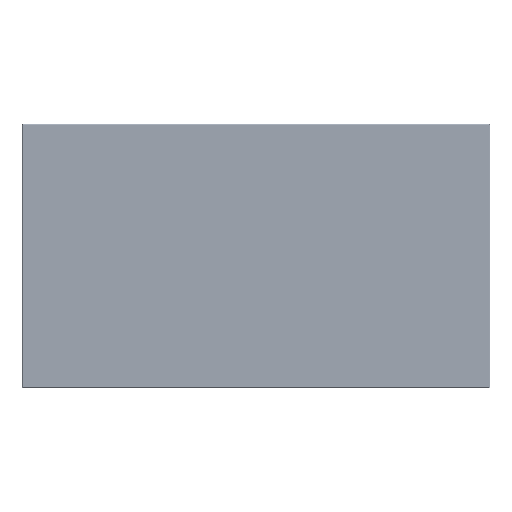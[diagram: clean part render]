
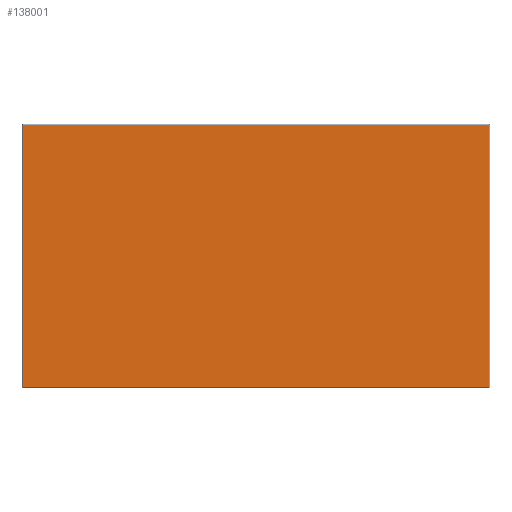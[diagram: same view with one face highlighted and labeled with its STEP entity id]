
A CAD part, front view. The second image highlights one B-rep face of the part: STEP entity #138001.
In plain terms, the highlighted planar face has unit normal (0, -1, 0).
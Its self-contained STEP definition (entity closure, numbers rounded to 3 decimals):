
#11832 = EDGE_CURVE ( 'NONE', #117384, #45383, #54052, .T. ) ;
#22846 = PLANE ( 'NONE',  #125905 ) ;
#34075 = CARTESIAN_POINT ( 'NONE',  ( 0., -98.142, -341.12 ) ) ;
#41653 = ORIENTED_EDGE ( 'NONE', *, *, #99251, .T. ) ;
#45251 = CARTESIAN_POINT ( 'NONE',  ( 0., -98.142, 341.12 ) ) ;
#45383 = VERTEX_POINT ( 'NONE', #64517 ) ;
#45443 = DIRECTION ( 'NONE',  ( 0., 1., 0. ) ) ;
#52439 = CARTESIAN_POINT ( 'NONE',  ( 605.72, -98.142, -341.12 ) ) ;
#53624 = LINE ( 'NONE', #34075, #101573 ) ;
#54052 = LINE ( 'NONE', #107506, #120758 ) ;
#64517 = CARTESIAN_POINT ( 'NONE',  ( 605.72, -98.142, 341.12 ) ) ;
#69261 = ORIENTED_EDGE ( 'NONE', *, *, #126642, .T. ) ;
#70384 = DIRECTION ( 'NONE',  ( -1., 0., 0. ) ) ;
#74022 = DIRECTION ( 'NONE',  ( 1., 0., 0. ) ) ;
#78191 = EDGE_LOOP ( 'NONE', ( #91987, #138674, #41653, #69261 ) ) ;
#82957 = DIRECTION ( 'NONE',  ( 0., 0., 1. ) ) ;
#91066 = EDGE_CURVE ( 'NONE', #108374, #117384, #53624, .T. ) ;
#91987 = ORIENTED_EDGE ( 'NONE', *, *, #91066, .T. ) ;
#99251 = EDGE_CURVE ( 'NONE', #45383, #129357, #135760, .T. ) ;
#99907 = DIRECTION ( 'NONE',  ( 1., 0., 0. ) ) ;
#101573 = VECTOR ( 'NONE', #99907, 1000. ) ;
#103873 = CARTESIAN_POINT ( 'NONE',  ( 0., -98.142, 0. ) ) ;
#104127 = FACE_OUTER_BOUND ( 'NONE', #78191, .T. ) ;
#106684 = CARTESIAN_POINT ( 'NONE',  ( -605.72, -98.142, 0. ) ) ;
#107506 = CARTESIAN_POINT ( 'NONE',  ( 605.72, -98.142, 0. ) ) ;
#108374 = VERTEX_POINT ( 'NONE', #164280 ) ;
#117384 = VERTEX_POINT ( 'NONE', #52439 ) ;
#118841 = VECTOR ( 'NONE', #70384, 1000. ) ;
#120758 = VECTOR ( 'NONE', #82957, 1000. ) ;
#125905 = AXIS2_PLACEMENT_3D ( 'NONE', #103873, #45443, #74022 ) ;
#126642 = EDGE_CURVE ( 'NONE', #129357, #108374, #147207, .T. ) ;
#129357 = VERTEX_POINT ( 'NONE', #150237 ) ;
#135760 = LINE ( 'NONE', #45251, #118841 ) ;
#138001 = ADVANCED_FACE ( 'NONE', ( #104127 ), #22846, .F. ) ;
#138674 = ORIENTED_EDGE ( 'NONE', *, *, #11832, .T. ) ;
#143951 = DIRECTION ( 'NONE',  ( 0., 0., -1. ) ) ;
#147207 = LINE ( 'NONE', #106684, #151414 ) ;
#150237 = CARTESIAN_POINT ( 'NONE',  ( -605.72, -98.142, 341.12 ) ) ;
#151414 = VECTOR ( 'NONE', #143951, 1000. ) ;
#164280 = CARTESIAN_POINT ( 'NONE',  ( -605.72, -98.142, -341.12 ) ) ;
